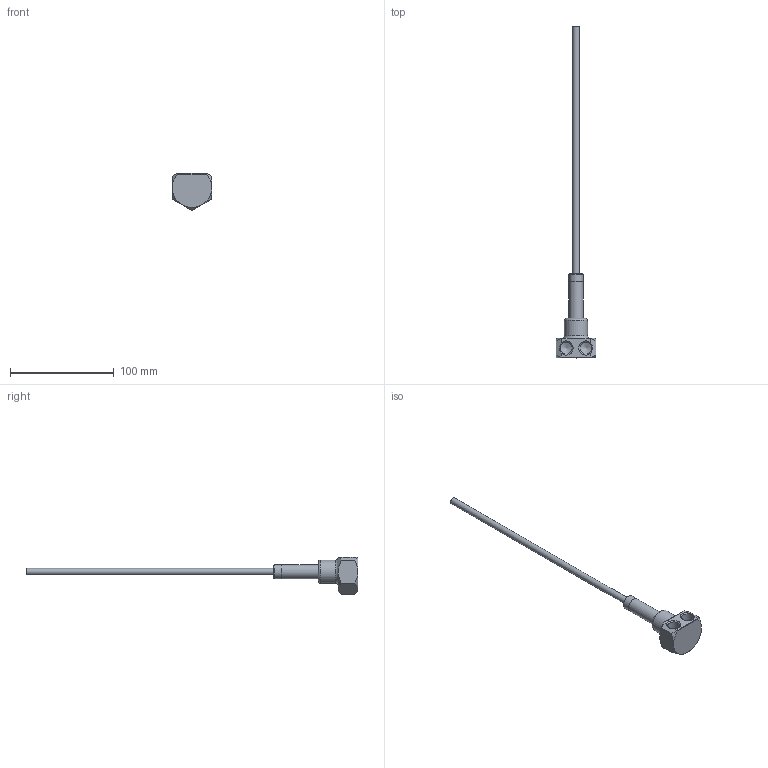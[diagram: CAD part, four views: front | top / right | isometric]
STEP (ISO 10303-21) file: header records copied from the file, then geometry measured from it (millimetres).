
FILE_DESCRIPTION(/* description */ (''),/* implementation_level */ '2;1');
FILE_NAME(/* name */ 'C:/Users/drich/Desktop/ET1414 v1.step',/* time_stamp */ '2020-01-15T19:50:06-06:00',/* author */ (''),/* organization */ (''),/* preprocessor_version */ 'ST-DEVELOPER v18',/* originating_system */ 'Autodesk Translation Framework v8.12.0.6',/* authorisation */ '');
FILE_SCHEMA (('AUTOMOTIVE_DESIGN { 1 0 10303 214 3 1 1 }'));
Length unit declared in the file: inch
Products named in the file (5): ET1414; ET1414H; ET1414 INSERT; SSPN14-2; HF250T-12
Assembly tree (4 placements, depth 3):
  ET1414
    ET1414H
      ET1414 INSERT
    SSPN14-2
    HF250T-12
Bounding box: 38.1 x 320.04 x 35.71 mm (x, y, z)
Volume: 27175.5 mm3; surface area: 24846 mm2
Topology: 4 solids, 4 shells, 106 faces, 283 edges, 187 vertices
Faces by surface type: cylinder 46, plane 28, cone 20, torus 9, bspline 3
Full cylindrical faces by diameter (mm): 5.842 x1, 5.969 x1, 6.35 x1, 6.909 x7, 7.818 x1, 7.938 x6, 7.976 x1, 9.246 x1, 11.062 x1, 11.668 x3, 13.665 x2, 13.716 x1, 22.225 x1
Entity records: 4742 total; most frequent: CARTESIAN_POINT 2021, ORIENTED_EDGE 560, DIRECTION 541, EDGE_CURVE 280, AXIS2_PLACEMENT_3D 235, VERTEX_POINT 187, EDGE_LOOP 123, CIRCLE 110
